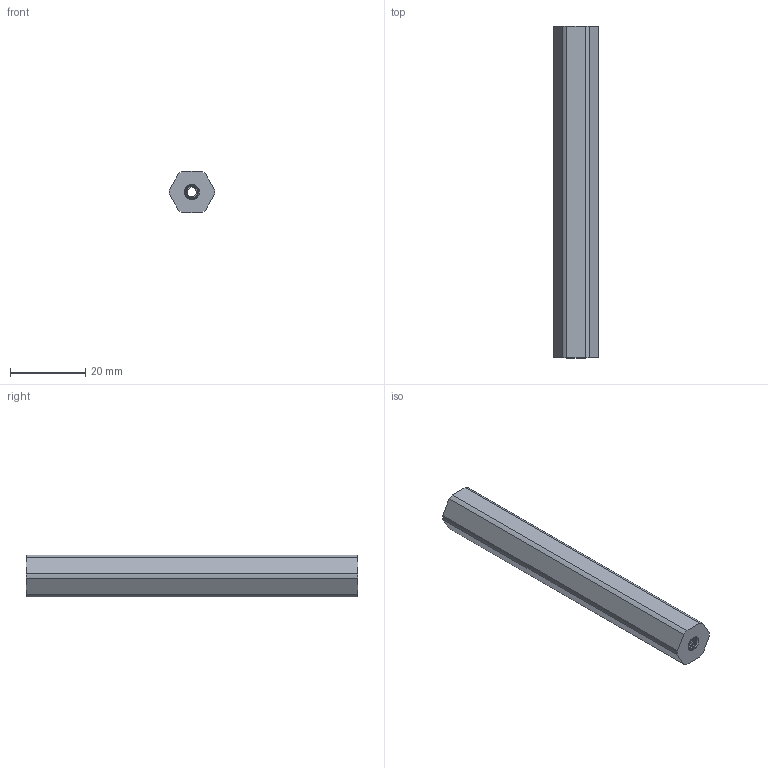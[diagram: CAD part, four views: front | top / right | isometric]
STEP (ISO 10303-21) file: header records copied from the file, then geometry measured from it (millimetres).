
FILE_DESCRIPTION (( 'STEP AP203' ), '1' );
FILE_NAME ('2104-0012-0088.STEP', '2018-03-09T17:41:29', ( '' ), ( '' ), 'SwSTEP 2.0', 'SolidWorks 2016', '' );
FILE_SCHEMA (( 'CONFIG_CONTROL_DESIGN' ));
Length unit declared in the file: millimetre
Products named in the file (1): 2104-0012-0088
Bounding box: 11.99 x 88 x 11 mm (x, y, z)
Volume: 8302.2 mm3; surface area: 4553.5 mm2
Topology: 1 solids, 1 shells, 190 faces, 558 edges, 370 vertices
Faces by surface type: cylinder 168, plane 10, cone 8, bspline 4
Entity records: 11993 total; most frequent: CARTESIAN_POINT 7843, ORIENTED_EDGE 1116, DIRECTION 624, EDGE_CURVE 558, VERTEX_POINT 370, AXIS2_PLACEMENT_3D 217, EDGE_LOOP 192, LINE 190
